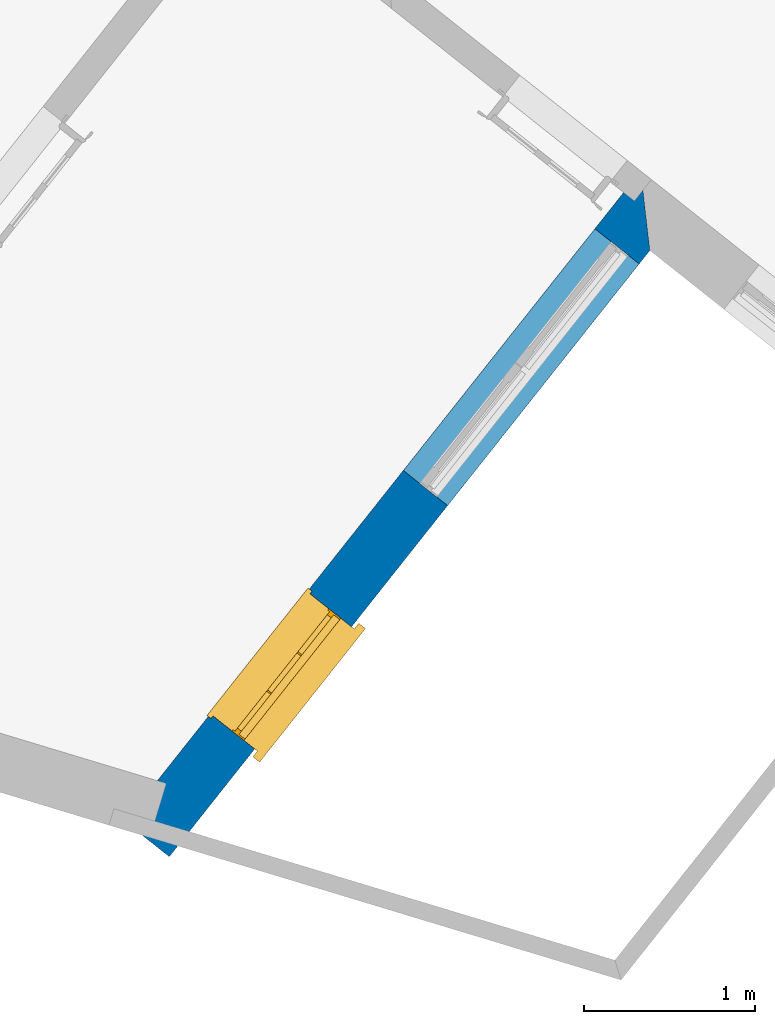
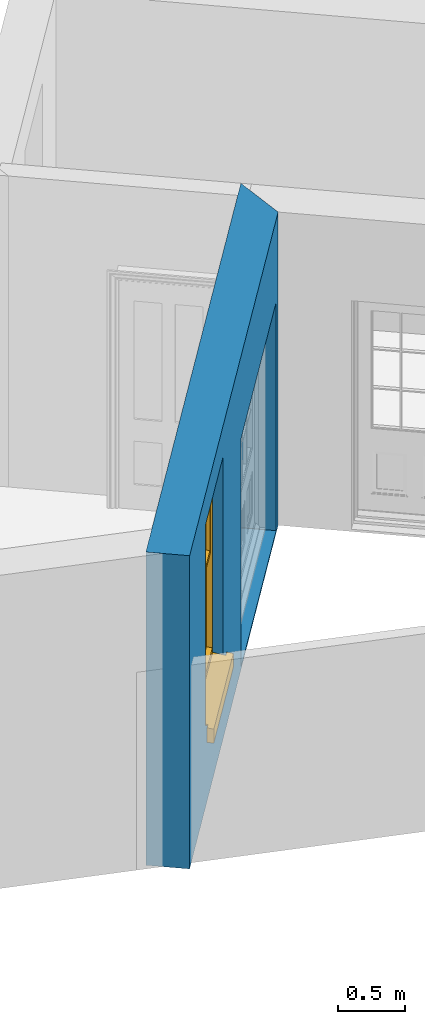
# One storey, part 2 of 8: 1 wall, 1 window, 2 openings.
"""IFC4 building model written with IfcOpenShell, lengths in metres."""

from ifc_helpers import new_model, si_unit, frame, origin, origin_with_axes, place, context, subcontext, project, spatial, polyline, outline, extrude, faceted_brep, source, transform, mapped, material, layer, layer_set, layer_usage, type_object, type_shapes, element, fill, save


model = new_model("IFC4")

# Units and contexts
model_context = context("Model", 3, world=origin_with_axes())
body_context = subcontext(model_context, "Body", "Model", "MODEL_VIEW")
ifc_project = project(units=[si_unit("PLANEANGLEUNIT", "RADIAN"), si_unit("MASSUNIT", "GRAM", prefix="KILO"), si_unit("FORCEUNIT", "NEWTON", prefix="KILO"), si_unit("LENGTHUNIT", "METRE"), si_unit("AREAUNIT", "SQUARE_METRE"), si_unit("VOLUMEUNIT", "CUBIC_METRE")], contexts=[model_context, model_context])

# Sites, building, storey
site_1_placement = place(None, origin_with_axes())
site_1 = spatial("IfcSite", under=ifc_project, at=site_1_placement, Name="Tamar")
site_2_placement = place(site_1_placement, origin_with_axes())
site_2 = spatial("IfcSite", under=site_1, at=site_2_placement, Name="Site plot-5", CompositionType="ELEMENT")
building_placement = place(None, origin_with_axes())
building = spatial("IfcBuilding", under=site_2, at=building_placement, Name="Building plot-5", CompositionType="ELEMENT")
storey_placement = place(None, frame((0.0, 0.0, 24.0), z_axis=(0.0, 0.0, 1.0), x_axis=(1.0, 0.0, 0.0)))
storey = spatial("IfcBuildingStorey", under=building, at=storey_placement, Name="plot-5 0", CompositionType="ELEMENT", Elevation=24.0)

# Wall, openings, window
ifc_material = material(Name="Masonry")
ifc_layer = layer(ifc_material, 0.33, ventilated=False)
ifc_layer_set = layer_set([ifc_layer], Name="exterior_0.08_0.25")
ifc_layer_usage = layer_usage(ifc_layer_set, "AXIS2", "POSITIVE", -0.25)
wall_type = type_object("IfcWallType", Name="exterior_0.08_0.25", PredefinedType="SOLIDWALL", material=ifc_layer_set)
wall_placement = place(storey_placement, frame((231.403804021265, 270.295503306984, 0.0), z_axis=(0.0, 0.0, 1.0), x_axis=(0.621192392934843, 0.783658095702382, 0.0)))
wall = element("IfcWall", 1, at=wall_placement, inside=storey, type_object=wall_type, material=ifc_layer_usage, Name="exterior", context=body_context, shape_type="SweptSolid", body=[
    extrude(outline(polyline([(-0.249999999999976, 0.0800000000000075), (-0.249999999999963, -0.249999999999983), (4.26473191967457, -0.250000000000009), (4.59473191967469, 0.0799999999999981), (-0.249999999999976, 0.0800000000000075)])), origin_with_axes(), (0.0, 0.0, 1.0), 2.85),
])
opening_1_placement = place(wall_placement, frame((0.552365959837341, 0.0, 0.75)))
opening_1 = element("IfcOpeningElement", 2, at=opening_1_placement, cuts=wall, Name="My Opening", ObjectType="Opening", context=body_context, shape_type="SweptSolid", body=[
    extrude(outline(polyline([(0.0, -0.270000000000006), (0.909999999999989, -0.270000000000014), (0.910000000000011, 1.10000000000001), (2.20934381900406e-14, 1.10000000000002), (0.0, -0.270000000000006)])), origin_with_axes(), (0.0, 0.0, 1.0), 1.82),
])
opening_2_placement = place(wall_placement, frame((2.36473191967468, 0.0, 0.0199999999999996)))
element("IfcOpeningElement", 3, at=opening_2_placement, cuts=wall, Name="My Opening", ObjectType="Opening", context=body_context, shape_type="SweptSolid", body=[
    extrude(outline(polyline([(0.0, -0.269999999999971), (1.79999999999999, -0.269999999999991), (1.80000000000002, 1.10000000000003), (2.22044604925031e-14, 1.10000000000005), (0.0, -0.269999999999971)])), origin_with_axes(), (0.0, 0.0, 1.0), 2.08),
])
window_type = type_object("IfcWindowType", Name="sash_big", PartitioningType="DOUBLE_PANEL_HORIZONTAL", PredefinedType="NOTDEFINED")
shared_shape = source(origin(), body_context, "Body", "Brep", [
    faceted_brep([(0.033125, 0.145, 0.975209), (0.01, 0.145, 0.975209), (0.033125, 0.145, 1.376042), (0.876875, 0.145, 0.975209), (0.876875, 0.145, 1.376042), (0.9, 0.145, 0.975209), (0.876875, 0.145, 1.386042), (0.876875, 0.145, 1.786875), (0.9, 0.145, 1.81), (0.033125, 0.145, 1.786875), (0.033125, 0.145, 1.386042), (0.01, 0.145, 1.81), (0.876875, 0.115, 1.376042), (0.876875, 0.115, 0.975209), (0.9, 0.115, 0.937083), (0.033125, 0.115, 1.786875), (0.01, 0.115, 1.81), (0.033125, 0.115, 1.386042), (0.01, 0.115, 0.937083), (0.033125, 0.115, 0.975209), (0.033125, 0.115, 1.376042), (0.876875, 0.115, 1.786875), (0.876875, 0.115, 1.386042), (0.9, 0.115, 1.81), (0.033125, 0.145, 0.937083), (0.01, 0.145, 0.937083), (0.033125, 0.145, 0.53625), (0.876875, 0.145, 0.937083), (0.876875, 0.145, 0.53625), (0.9, 0.145, 0.937083), (0.876875, 0.145, 0.52625), (0.876875, 0.145, 0.125417), (0.9, 0.145, 0.077167), (0.033125, 0.145, 0.125417), (0.033125, 0.145, 0.52625), (0.01, 0.145, 0.077167), (-0.0425, 0.0, 0.01), (-0.0425, -0.05, 0.001667), (0.0, 0.0, 0.01), (0.9525, 0.0, 0.01), (0.91, 0.0, 0.01), (0.9525, -0.05, 0.001667), (-0.02, 0.33, 0.077167), (0.0, 0.33, 0.077167), (-0.02, 0.36, 0.077167), (0.0, 0.19, 0.077167), (0.01, 0.19, 0.077167), (0.91, 0.19, 0.077167), (0.91, 0.33, 0.077167), (0.9, 0.19, 0.077167), (0.93, 0.33, 0.077167), (0.93, 0.36, 0.077167), (0.01, 0.175, 0.975209), (0.9, 0.175, 0.975209), (0.876875, 0.175, 0.125417), (0.876875, 0.175, 0.52625), (0.9, 0.175, 0.077167), (0.876875, 0.175, 0.53625), (0.876875, 0.175, 0.937083), (0.033125, 0.175, 0.125417), (0.01, 0.175, 0.077167), (0.033125, 0.175, 0.52625), (0.033125, 0.175, 0.937083), (0.033125, 0.175, 0.53625), (-0.02, 0.33, 0.052167), (-0.02, 0.36, 0.052167), (0.93, 0.36, 0.052167), (0.93, 0.33, 0.052167), (0.91, 0.33, 0.052167), (0.0, 0.33, 0.052167), (0.91, 0.1, 0.026667), (0.0, 0.1, 0.026667), (-0.0425, -0.05, -0.123333), (0.9525, -0.05, -0.123333), (-0.0425, 0.0, -0.123333), (0.9525, 0.0, -0.123333), (0.01, 0.19, 1.81), (0.9, 0.19, 1.81), (0.0, 0.19, 1.82), (0.91, 0.19, 1.82), (0.01, 0.1, 0.077167), (0.9, 0.1, 0.077167), (0.592292, 0.145, 0.125417), (0.592292, 0.175, 0.125417), (0.317708, 0.175, 0.125417), (0.317708, 0.145, 0.125417), (0.592292, 0.145, 0.53625), (0.317708, 0.145, 0.53625), (0.317708, 0.145, 0.52625), (0.592292, 0.145, 0.52625), (0.592292, 0.175, 0.53625), (0.317708, 0.175, 0.53625), (0.592292, 0.115, 1.386042), (0.592292, 0.145, 1.386042), (0.317708, 0.145, 1.386042), (0.317708, 0.115, 1.386042), (0.317708, 0.115, 1.376042), (0.592292, 0.115, 1.376042), (0.317708, 0.145, 1.376042), (0.592292, 0.145, 1.376042), (0.602292, 0.115, 1.376042), (0.592292, 0.115, 0.975209), (0.602292, 0.115, 0.975209), (0.602292, 0.145, 0.975209), (0.592292, 0.145, 0.975209), (0.602292, 0.145, 1.376042), (0.602292, 0.175, 0.53625), (0.602292, 0.145, 0.53625), (0.317708, 0.175, 0.52625), (0.307708, 0.175, 0.125417), (0.307708, 0.175, 0.52625), (0.602292, 0.175, 0.52625), (0.602292, 0.175, 0.125417), (0.592292, 0.175, 0.52625), (0.307708, 0.175, 0.53625), (0.317708, 0.175, 0.937083), (0.307708, 0.175, 0.937083), (0.602292, 0.175, 0.937083), (0.592292, 0.175, 0.937083), (0.307708, 0.145, 0.52625), (0.307708, 0.145, 0.125417), (0.307708, 0.145, 0.53625), (0.307708, 0.145, 0.937083), (0.592292, 0.145, 0.937083), (0.317708, 0.145, 0.937083), (0.602292, 0.145, 0.937083), (0.602292, 0.145, 0.52625), (0.602292, 0.145, 0.125417), (0.307708, 0.115, 1.386042), (0.307708, 0.115, 1.376042), (0.307708, 0.115, 0.975209), (0.317708, 0.115, 0.975209), (0.317708, 0.115, 1.786875), (0.307708, 0.115, 1.786875), (0.602292, 0.115, 1.786875), (0.592292, 0.115, 1.786875), (0.602292, 0.115, 1.386042), (0.602292, 0.145, 1.386042), (0.307708, 0.145, 1.386042), (0.307708, 0.145, 1.786875), (0.317708, 0.145, 1.786875), (0.592292, 0.145, 1.786875), (0.602292, 0.145, 1.786875), (0.307708, 0.145, 1.376042), (0.317708, 0.145, 0.975209), (0.307708, 0.145, 0.975209), (0.91, 0.1, 1.82), (0.9, 0.1, 1.81), (0.01, 0.1, 1.81), (0.0, 0.1, 1.82), (0.91, 0.0, 0.0), (0.0, 0.0, 0.0), (0.91, 0.33, 0.0), (0.0, 0.33, 0.0)], [[[0, 1, 2]], [[3, 4, 5]], [[6, 7, 8]], [[9, 10, 11]], [[12, 13, 14]], [[15, 16, 17]], [[18, 19, 20]], [[21, 22, 23]], [[24, 25, 26]], [[27, 28, 29]], [[30, 31, 32]], [[33, 34, 35]], [[14, 27, 29]], [[25, 24, 18]], [[36, 37, 38]], [[39, 40, 41]], [[42, 43, 44]], [[45, 46, 43]], [[47, 48, 49]], [[50, 51, 48]], [[1, 0, 52]], [[5, 53, 3]], [[54, 55, 56]], [[57, 58, 53]], [[59, 60, 61]], [[62, 63, 52]], [[48, 43, 46, 49]], [[51, 44, 43, 48]], [[64, 42, 44, 65]], [[65, 44, 51, 66]], [[66, 51, 50, 67]], [[65, 66, 68, 69]], [[60, 56, 49, 46]], [[70, 71, 38, 40]], [[37, 41, 40, 38]], [[37, 72, 73, 41]], [[74, 75, 73, 72]], [[8, 11, 76, 77]], [[76, 78, 79, 77]], [[32, 35, 80, 81]], [[81, 80, 71, 70]], [[82, 83, 84, 85]], [[86, 87, 88, 89]], [[86, 90, 91, 87]], [[92, 93, 94, 95]], [[92, 95, 96, 97]], [[96, 98, 99, 97]], [[100, 97, 101, 102]], [[103, 104, 99, 105]], [[97, 99, 104, 101]], [[102, 103, 105, 100]], [[28, 57, 106, 107]], [[108, 84, 109, 110]], [[111, 112, 83, 113]], [[114, 110, 61, 63]], [[90, 113, 108, 91]], [[115, 91, 114, 116]], [[117, 106, 90, 118]], [[111, 106, 57, 55]], [[119, 110, 109, 120]], [[34, 61, 110, 119]], [[89, 113, 83, 82]], [[88, 108, 113, 89]], [[85, 84, 108, 88]], [[121, 114, 63, 26]], [[122, 116, 114, 121]], [[123, 118, 90, 86]], [[87, 91, 115, 124]], [[107, 106, 117, 125]], [[126, 111, 55, 30]], [[127, 112, 111, 126]], [[126, 30, 28, 107]], [[88, 119, 120, 85]], [[126, 89, 82, 127]], [[125, 123, 86, 107]], [[121, 26, 34, 119]], [[124, 122, 121, 87]], [[128, 17, 20, 129]], [[96, 129, 130, 131]], [[132, 133, 128, 95]], [[134, 135, 92, 136]], [[100, 12, 22, 136]], [[137, 6, 4, 105]], [[94, 138, 139, 140]], [[137, 93, 141, 142]], [[99, 98, 94, 93]], [[143, 2, 10, 138]], [[144, 145, 143, 98]], [[129, 143, 145, 130]], [[20, 2, 143, 129]], [[131, 144, 98, 96]], [[128, 138, 10, 17]], [[133, 139, 138, 128]], [[135, 141, 93, 92]], [[95, 94, 140, 132]], [[22, 6, 137, 136]], [[136, 137, 142, 134]], [[100, 105, 4, 12]], [[107, 86, 89, 126]], [[106, 111, 113, 90]], [[91, 108, 110, 114]], [[87, 121, 119, 88]], [[97, 100, 136, 92]], [[129, 96, 95, 128]], [[98, 143, 138, 94]], [[105, 99, 93, 137]], [[131, 101, 104, 144]], [[124, 115, 118, 123]], [[132, 140, 141, 135]], [[120, 109, 59, 33]], [[15, 9, 139, 133]], [[134, 142, 7, 21]], [[31, 54, 112, 127]], [[36, 74, 72, 37]], [[39, 41, 73, 75]], [[18, 14, 101, 131]], [[23, 16, 132, 135]], [[83, 56, 60, 84]], [[52, 53, 118, 115]], [[53, 52, 144, 104]], [[11, 8, 141, 140]], [[14, 18, 124, 123]], [[2, 1, 11, 10]], [[8, 5, 4, 6]], [[57, 53, 56, 55]], [[60, 52, 63, 61]], [[26, 25, 35, 34]], [[32, 29, 28, 30]], [[14, 23, 22, 12]], [[18, 20, 17, 16]], [[19, 0, 2, 20]], [[17, 10, 9, 15]], [[12, 4, 3, 13]], [[21, 7, 6, 22]], [[27, 58, 57, 28]], [[30, 55, 54, 31]], [[33, 59, 61, 34]], [[26, 63, 62, 24]], [[5, 8, 77, 53]], [[76, 11, 1, 52]], [[46, 45, 78, 76]], [[49, 77, 79, 47]], [[70, 146, 147, 81]], [[71, 80, 148, 149]], [[19, 130, 145, 0]], [[102, 13, 3, 103]], [[116, 122, 24, 62]], [[29, 32, 81, 14]], [[80, 35, 25, 18]], [[60, 46, 76, 52]], [[77, 49, 56, 53]], [[23, 14, 81, 147]], [[16, 148, 80, 18]], [[35, 85, 120]], [[120, 33, 35]], [[127, 82, 32]], [[32, 31, 127]], [[32, 82, 85, 35]], [[102, 101, 14]], [[14, 13, 102]], [[18, 131, 130]], [[130, 19, 18]], [[134, 21, 23]], [[23, 135, 134]], [[16, 15, 133]], [[133, 132, 16]], [[11, 140, 139]], [[139, 9, 11]], [[142, 141, 8]], [[8, 7, 142]], [[23, 147, 148, 16]], [[146, 149, 148, 147]], [[52, 115, 116]], [[116, 62, 52]], [[118, 53, 117]], [[58, 117, 53]], [[27, 125, 117, 58]], [[56, 83, 112]], [[112, 54, 56]], [[109, 84, 60]], [[60, 59, 109]], [[125, 27, 14]], [[14, 123, 125]], [[122, 124, 18]], [[18, 24, 122]], [[145, 144, 52]], [[52, 0, 145]], [[103, 3, 53]], [[53, 104, 103]], [[79, 78, 149, 146]], [[78, 45, 71, 149]], [[146, 70, 47, 79]], [[150, 75, 74, 151]], [[68, 66, 67]], [[48, 68, 67, 50]], [[69, 64, 65]], [[42, 64, 69, 43]], [[69, 68, 152, 153]], [[70, 68, 48, 47]], [[150, 152, 68, 70]], [[43, 69, 71, 45]], [[69, 153, 151, 71]], [[152, 150, 151, 153]], [[38, 151, 74, 36]], [[71, 151, 38]], [[39, 75, 150, 40]], [[40, 150, 70]]]),
])
type_shapes(window_type, [shared_shape])
window_placement = place(storey_placement, frame((231.958517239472, 270.560647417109, 0.75), z_axis=(0.0, 0.0, 1.0), x_axis=(0.565285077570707, 0.713128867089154, 0.0)))
window = element("IfcWindow", 4, at=window_placement, inside=storey, type_object=window_type, Name="living outside window", OverallHeight=1.82, OverallWidth=0.91, context=body_context, shape_type="MappedRepresentation", body=[
    mapped(shared_shape, transform((0.0, 0.0, 0.0), scale=1.0)),
])
fill(opening_1, window)

save(model, "model.ifc")
